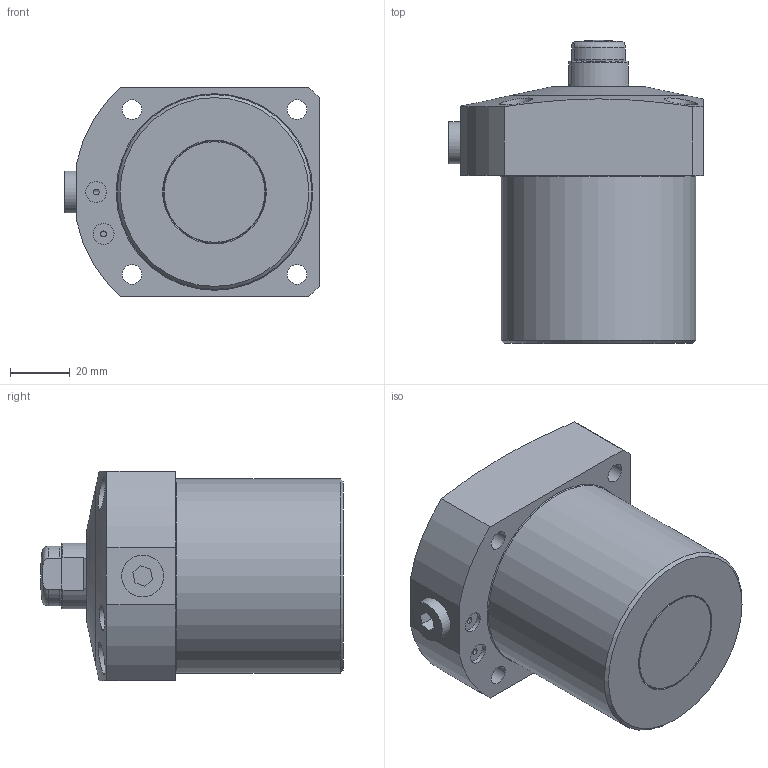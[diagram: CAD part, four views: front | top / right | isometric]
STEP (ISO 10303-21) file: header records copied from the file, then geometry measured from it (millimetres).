
FILE_DESCRIPTION(/* description */ (''),/* implementation_level */ '2;1');
FILE_NAME(/* name */ 'FSC-16L.stp',/* time_stamp */ '2022-05-04T14:00:22+08:00',/* author */ (''),/* organization */ (''),/* preprocessor_version */ 'ST-DEVELOPER v16.7',/* originating_system */ 'SIEMENS PLM Software NX 12.0',/* authorisation */ '');
FILE_SCHEMA (('AUTOMOTIVE_DESIGN { 1 0 10303 214 3 1 1 1 }'));
Length unit declared in the file: millimetre
Products named in the file (1): FSC-065BL
Bounding box: 85 x 101.1 x 70 mm (x, y, z)
Volume: 251356.4 mm3; surface area: 65741.2 mm2
Topology: 8 solids, 8 shells, 340 faces, 823 edges, 532 vertices
Faces by surface type: plane 165, extrusion 61, cylinder 55, torus 29, cone 27, bspline 3
Full cylindrical faces by diameter (mm): 2 x2, 6 x1, 6.5 x4, 7 x2, 8 x1, 8.4 x1, 9 x1, 9.6 x1, 10 x7, 11 x4, 12 x2, 14 x1, 21.981 x1, 22 x3, 26.4 x1, 27 x1, 28.676 x1, 29 x1, 29.493 x1, 34 x2, 50 x1, 52.8 x1, 55 x1, 55.009 x1, 59 x2, 65 x1
Entity records: 11725 total; most frequent: CARTESIAN_POINT 3225, ORIENTED_EDGE 1400, DIRECTION 1326, EDGE_CURVE 700, VERTEX_POINT 510, EDGE_LOOP 494, VECTOR 452, AXIS2_PLACEMENT_3D 437
